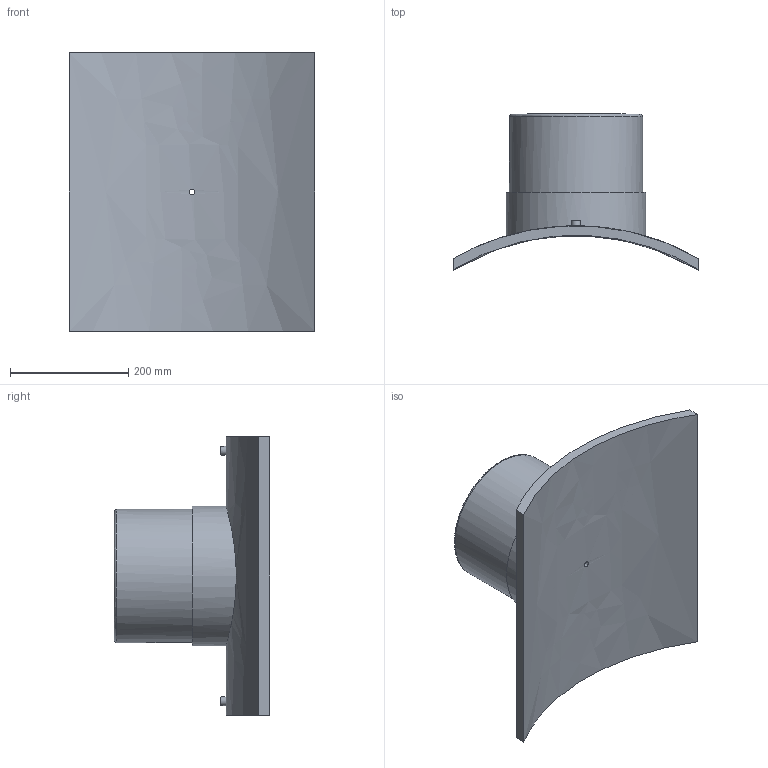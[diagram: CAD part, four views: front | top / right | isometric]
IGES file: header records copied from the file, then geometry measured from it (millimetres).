
Global section: file name: 495803800225T; native system: Autodesk Inventor 2019; preprocessor: unknown; author: KIM; date: 20240404.115721; units: millimetre
Bounding box: 415 x 263.03 x 470 mm (x, y, z)
Volume: 6341803.2 mm3; surface area: 699653 mm2
Topology: 1 solids, 1 shells, 29 faces, 60 edges, 43 vertices
Faces by surface type: bspline 29
